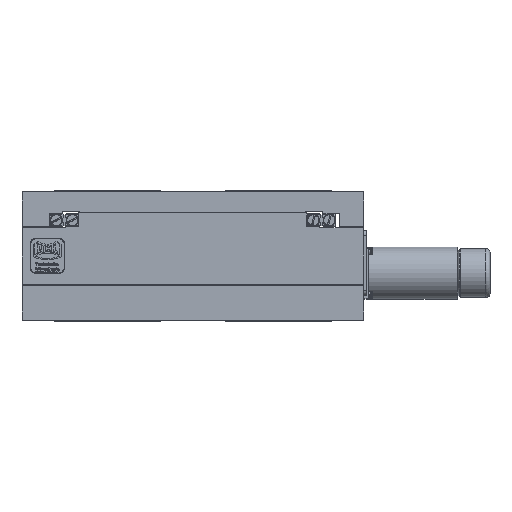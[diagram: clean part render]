
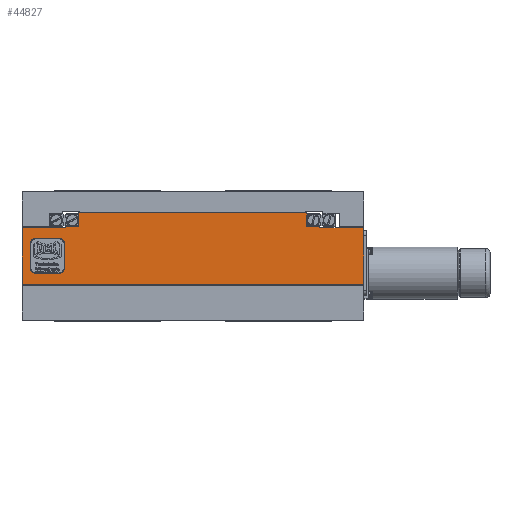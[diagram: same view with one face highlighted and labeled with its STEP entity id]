
A CAD part, left-side view. The second image highlights one B-rep face of the part: STEP entity #44827.
In plain terms, the highlighted planar face has unit normal (-1, 0, 0).
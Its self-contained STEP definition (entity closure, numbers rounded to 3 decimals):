
#2459=FACE_BOUND('',#8834,.T.);
#3594=CIRCLE('',#48179,3.);
#3596=CIRCLE('',#48183,3.);
#3598=CIRCLE('',#48187,3.);
#3600=CIRCLE('',#48191,3.);
#6126=FACE_OUTER_BOUND('',#8833,.T.);
#8833=EDGE_LOOP('',(#35425,#35426,#35427,#35428,#35429,#35430,#35431,#35432,
#35433,#35434,#35435,#35436));
#8834=EDGE_LOOP('',(#35437,#35438,#35439,#35440,#35441,#35442,#35443,#35444));
#12085=LINE('',#76387,#15487);
#12096=LINE('',#76408,#15498);
#12098=LINE('',#76412,#15500);
#12112=LINE('',#76439,#15514);
#12121=LINE('',#76505,#15523);
#12124=LINE('',#76511,#15526);
#12127=LINE('',#76517,#15529);
#12130=LINE('',#76523,#15532);
#12147=LINE('',#76589,#15549);
#12150=LINE('',#76595,#15552);
#12168=LINE('',#76669,#15570);
#12173=LINE('',#76681,#15575);
#12177=LINE('',#76693,#15579);
#12181=LINE('',#76705,#15583);
#12185=LINE('',#76717,#15587);
#12224=LINE('',#76837,#15626);
#15487=VECTOR('',#56542,10.);
#15498=VECTOR('',#56555,10.);
#15500=VECTOR('',#56559,10.);
#15514=VECTOR('',#56577,10.);
#15523=VECTOR('',#56636,10.);
#15526=VECTOR('',#56641,10.);
#15529=VECTOR('',#56646,10.);
#15532=VECTOR('',#56651,10.);
#15549=VECTOR('',#56712,10.);
#15552=VECTOR('',#56717,10.);
#15570=VECTOR('',#56803,10.);
#15575=VECTOR('',#56814,10.);
#15579=VECTOR('',#56826,10.);
#15583=VECTOR('',#56838,10.);
#15587=VECTOR('',#56850,10.);
#15626=VECTOR('',#56995,10.);
#19283=VERTEX_POINT('',#76384);
#19284=VERTEX_POINT('',#76386);
#19293=VERTEX_POINT('',#76406);
#19294=VERTEX_POINT('',#76411);
#19304=VERTEX_POINT('',#76436);
#19305=VERTEX_POINT('',#76438);
#19336=VERTEX_POINT('',#76502);
#19339=VERTEX_POINT('',#76509);
#19341=VERTEX_POINT('',#76515);
#19343=VERTEX_POINT('',#76521);
#19370=VERTEX_POINT('',#76588);
#19372=VERTEX_POINT('',#76594);
#19397=VERTEX_POINT('',#76678);
#19398=VERTEX_POINT('',#76680);
#19400=VERTEX_POINT('',#76686);
#19402=VERTEX_POINT('',#76692);
#19404=VERTEX_POINT('',#76698);
#19406=VERTEX_POINT('',#76704);
#19408=VERTEX_POINT('',#76710);
#19410=VERTEX_POINT('',#76716);
#24809=EDGE_CURVE('',#19284,#19283,#12085,.T.);
#24820=EDGE_CURVE('',#19293,#19283,#12096,.T.);
#24822=EDGE_CURVE('',#19284,#19294,#12098,.T.);
#24836=EDGE_CURVE('',#19304,#19305,#12112,.T.);
#24869=EDGE_CURVE('',#19336,#19304,#12121,.T.);
#24872=EDGE_CURVE('',#19336,#19339,#12124,.T.);
#24875=EDGE_CURVE('',#19341,#19339,#12127,.T.);
#24878=EDGE_CURVE('',#19343,#19341,#12130,.T.);
#24909=EDGE_CURVE('',#19294,#19370,#12147,.T.);
#24912=EDGE_CURVE('',#19370,#19372,#12150,.T.);
#24946=EDGE_CURVE('',#19305,#19293,#12168,.T.);
#24951=EDGE_CURVE('',#19398,#19397,#12173,.T.);
#24954=EDGE_CURVE('',#19400,#19398,#3594,.T.);
#24957=EDGE_CURVE('',#19402,#19400,#12177,.T.);
#24960=EDGE_CURVE('',#19404,#19402,#3596,.T.);
#24963=EDGE_CURVE('',#19406,#19404,#12181,.T.);
#24966=EDGE_CURVE('',#19408,#19406,#3598,.T.);
#24969=EDGE_CURVE('',#19410,#19408,#12185,.T.);
#24972=EDGE_CURVE('',#19397,#19410,#3600,.T.);
#25026=EDGE_CURVE('',#19343,#19372,#12224,.T.);
#35425=ORIENTED_EDGE('',*,*,#24809,.T.);
#35426=ORIENTED_EDGE('',*,*,#24820,.F.);
#35427=ORIENTED_EDGE('',*,*,#24946,.F.);
#35428=ORIENTED_EDGE('',*,*,#24836,.F.);
#35429=ORIENTED_EDGE('',*,*,#24869,.F.);
#35430=ORIENTED_EDGE('',*,*,#24872,.T.);
#35431=ORIENTED_EDGE('',*,*,#24875,.F.);
#35432=ORIENTED_EDGE('',*,*,#24878,.F.);
#35433=ORIENTED_EDGE('',*,*,#25026,.T.);
#35434=ORIENTED_EDGE('',*,*,#24912,.F.);
#35435=ORIENTED_EDGE('',*,*,#24909,.F.);
#35436=ORIENTED_EDGE('',*,*,#24822,.F.);
#35437=ORIENTED_EDGE('',*,*,#24951,.T.);
#35438=ORIENTED_EDGE('',*,*,#24972,.T.);
#35439=ORIENTED_EDGE('',*,*,#24969,.T.);
#35440=ORIENTED_EDGE('',*,*,#24966,.T.);
#35441=ORIENTED_EDGE('',*,*,#24963,.T.);
#35442=ORIENTED_EDGE('',*,*,#24960,.T.);
#35443=ORIENTED_EDGE('',*,*,#24957,.T.);
#35444=ORIENTED_EDGE('',*,*,#24954,.T.);
#40291=PLANE('',#48241);
#44827=ADVANCED_FACE('',(#6126,#2459),#40291,.F.);
#48179=AXIS2_PLACEMENT_3D('',#76687,#56820,#56821);
#48183=AXIS2_PLACEMENT_3D('',#76699,#56832,#56833);
#48187=AXIS2_PLACEMENT_3D('',#76711,#56844,#56845);
#48191=AXIS2_PLACEMENT_3D('',#76721,#56856,#56857);
#48241=AXIS2_PLACEMENT_3D('',#76836,#56993,#56994);
#56542=DIRECTION('',(0.,1.,0.));
#56555=DIRECTION('',(0.,0.,1.));
#56559=DIRECTION('',(0.,0.,1.));
#56577=DIRECTION('',(0.,0.,-1.));
#56636=DIRECTION('',(0.,-1.,0.));
#56641=DIRECTION('',(0.,0.,1.));
#56646=DIRECTION('',(0.,-1.,0.));
#56651=DIRECTION('',(0.,0.,-1.));
#56712=DIRECTION('',(0.,-1.,0.));
#56717=DIRECTION('',(0.,0.,1.));
#56803=DIRECTION('',(0.,1.,0.));
#56814=DIRECTION('',(0.,0.,-1.));
#56820=DIRECTION('center_axis',(1.,0.,0.));
#56821=DIRECTION('ref_axis',(0.,-1.,0.));
#56826=DIRECTION('',(0.,-1.,0.));
#56832=DIRECTION('center_axis',(1.,0.,0.));
#56833=DIRECTION('ref_axis',(0.,0.,
1.));
#56838=DIRECTION('',(0.,0.,1.));
#56844=DIRECTION('center_axis',(1.,0.,0.));
#56845=DIRECTION('ref_axis',(0.,1.,0.));
#56850=DIRECTION('',(0.,1.,0.));
#56856=DIRECTION('center_axis',(1.,0.,0.));
#56857=DIRECTION('ref_axis',(0.,0.,
-1.));
#56993=DIRECTION('center_axis',(1.,0.,0.));
#56994=DIRECTION('ref_axis',(0.,1.,0.));
#56995=DIRECTION('',(0.,1.,0.));
#76384=CARTESIAN_POINT('',(-105.,105.,57.5));
#76386=CARTESIAN_POINT('',(-105.,78.,57.5));
#76387=CARTESIAN_POINT('',(-105.,78.,57.5));
#76406=CARTESIAN_POINT('',(-105.,105.,22.5));
#76408=CARTESIAN_POINT('',(-105.,105.,24.));
#76411=CARTESIAN_POINT('',(-105.,78.,58.));
#76412=CARTESIAN_POINT('',(-105.,78.,57.5));
#76436=CARTESIAN_POINT('',(-105.,-105.,57.5));
#76438=CARTESIAN_POINT('',(-105.,-105.,22.5));
#76439=CARTESIAN_POINT('',(-105.,-105.,57.5));
#76502=CARTESIAN_POINT('',(-105.,-78.,57.5));
#76505=CARTESIAN_POINT('',(-105.,-78.,57.5));
#76509=CARTESIAN_POINT('',(-105.,-78.,58.));
#76511=CARTESIAN_POINT('',(-105.,-78.,50.278));
#76515=CARTESIAN_POINT('',(-105.,-70.,58.));
#76517=CARTESIAN_POINT('',(-105.,-70.,58.));
#76521=CARTESIAN_POINT('',(-105.,-70.,66.5));
#76523=CARTESIAN_POINT('',(-105.,-70.,66.));
#76588=CARTESIAN_POINT('',(-105.,70.,58.));
#76589=CARTESIAN_POINT('',(-105.,78.,58.));
#76594=CARTESIAN_POINT('',(-105.,70.,66.5));
#76595=CARTESIAN_POINT('',(-105.,70.,66.));
#76669=CARTESIAN_POINT('',(-105.,-105.,22.5));
#76678=CARTESIAN_POINT('',(-105.,78.8,32.5));
#76680=CARTESIAN_POINT('',(-105.,78.8,47.7));
#76681=CARTESIAN_POINT('',(-105.,78.8,38.278));
#76686=CARTESIAN_POINT('',(-105.,81.8,50.7));
#76687=CARTESIAN_POINT('Origin',(-105.,81.8,47.7));
#76692=CARTESIAN_POINT('',(-105.,97.,50.7));
#76693=CARTESIAN_POINT('',(-105.,66.527,50.7));
#76698=CARTESIAN_POINT('',(-105.,100.,47.7));
#76699=CARTESIAN_POINT('Origin',(-105.,97.,47.7));
#76704=CARTESIAN_POINT('',(-105.,100.,32.5));
#76705=CARTESIAN_POINT('',(-105.,100.,45.878));
#76710=CARTESIAN_POINT('',(-105.,97.,29.5));
#76711=CARTESIAN_POINT('Origin',(-105.,97.,32.5));
#76716=CARTESIAN_POINT('',(-105.,81.8,29.5));
#76717=CARTESIAN_POINT('',(-105.,74.127,29.5));
#76721=CARTESIAN_POINT('Origin',(-105.,81.8,32.5));
#76836=CARTESIAN_POINT('Origin',(-105.,51.253,44.055));
#76837=CARTESIAN_POINT('',(-105.,-35.,66.5));
